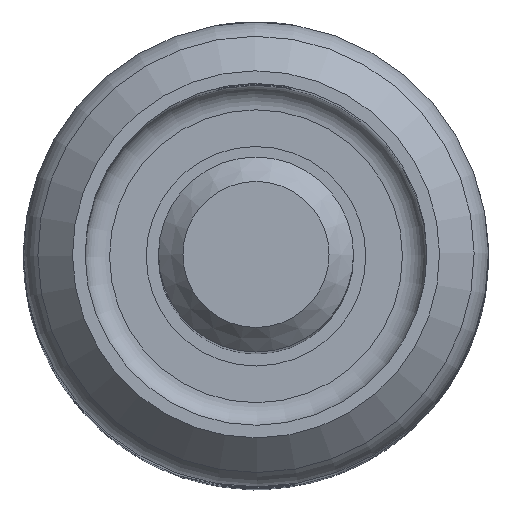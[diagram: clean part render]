
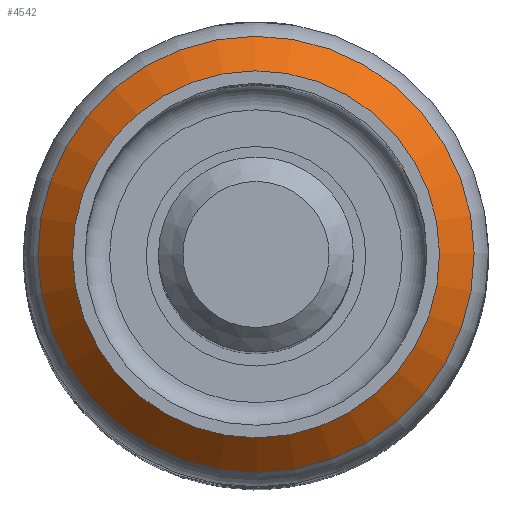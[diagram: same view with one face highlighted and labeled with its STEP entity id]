
A CAD part, top view. The second image highlights one B-rep face of the part: STEP entity #4542.
In plain terms, the highlighted conical face has half-angle 45 degrees and reference radius 8.5 mm.
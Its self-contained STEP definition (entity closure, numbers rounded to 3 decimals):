
#30=CONICAL_SURFACE('',#4956,8.5,0.785);
#1332=ORIENTED_EDGE('',*,*,#2607,.F.);
#1333=ORIENTED_EDGE('',*,*,#2606,.T.);
#2606=EDGE_CURVE('',#3288,#3288,#3678,.T.);
#2607=EDGE_CURVE('',#3289,#3289,#3679,.T.);
#3288=VERTEX_POINT('',#7176);
#3289=VERTEX_POINT('',#7179);
#3678=CIRCLE('',#4949,7.5);
#3679=CIRCLE('',#4951,8.914);
#3847=EDGE_LOOP('',(#1332));
#3848=EDGE_LOOP('',(#1333));
#4183=FACE_BOUND('',#3847,.T.);
#4184=FACE_BOUND('',#3848,.T.);
#4542=ADVANCED_FACE('',(#4183,#4184),#30,.T.);
#4949=AXIS2_PLACEMENT_3D('',#7175,#5420,#5421);
#4951=AXIS2_PLACEMENT_3D('',#7178,#5424,#5425);
#4956=AXIS2_PLACEMENT_3D('',#7257,#5436,#5437);
#5420=DIRECTION('',(0.,0.,-1.));
#5421=DIRECTION('',(1.,0.006,0.));
#5424=DIRECTION('',(0.,0.,-1.));
#5425=DIRECTION('',(1.,0.006,0.));
#5436=DIRECTION('',(0.,0.,-1.));
#5437=DIRECTION('',(1.,0.006,0.));
#7175=CARTESIAN_POINT('',(-60.563,5.511,32.));
#7176=CARTESIAN_POINT('',(-53.063,5.558,32.));
#7178=CARTESIAN_POINT('',(-60.563,5.511,30.586));
#7179=CARTESIAN_POINT('',(-51.649,5.566,30.586));
#7257=CARTESIAN_POINT('',(-60.563,5.511,31.));
